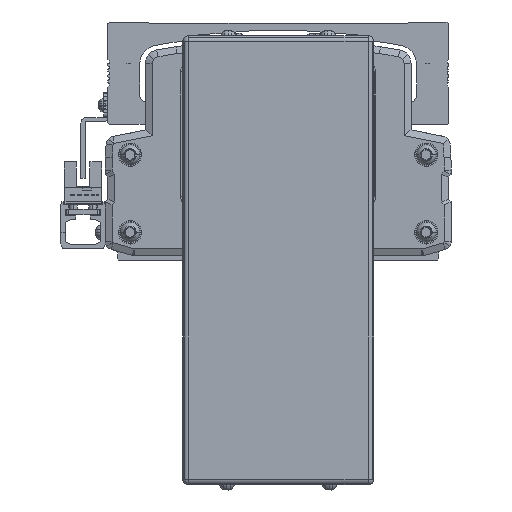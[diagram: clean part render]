
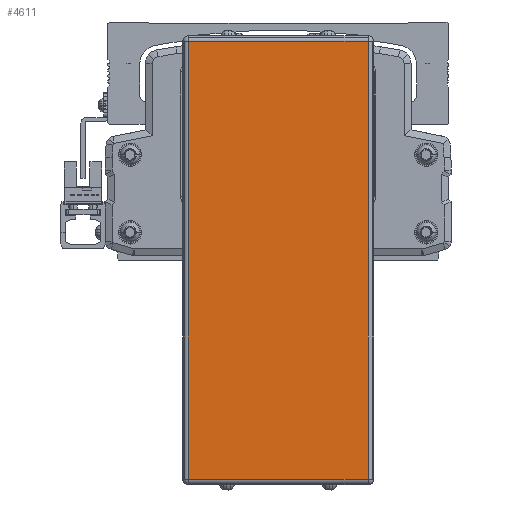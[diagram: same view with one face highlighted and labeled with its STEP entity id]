
A CAD part, front view. The second image highlights one B-rep face of the part: STEP entity #4611.
In plain terms, the highlighted planar face has unit normal (0, -1, 0).
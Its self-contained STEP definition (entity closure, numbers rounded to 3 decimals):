
#4611=ADVANCED_FACE('',(#11059),#11060,.T.);
#11059=FACE_OUTER_BOUND('',#20031,.T.);
#11060=PLANE('',#20032);
#20031=EDGE_LOOP('',(#34419,#34420,#34421,#34422));
#20032=AXIS2_PLACEMENT_3D('',#34423,#34424,#34425);
#34419=ORIENTED_EDGE('',*,*,#56355,.F.);
#34420=ORIENTED_EDGE('',*,*,#52327,.F.);
#34421=ORIENTED_EDGE('',*,*,#56356,.F.);
#34422=ORIENTED_EDGE('',*,*,#56357,.F.);
#34423=CARTESIAN_POINT('',(-299.996,-463.778,-49.1));
#34424=DIRECTION('',(0.,-1.0,0.));
#34425=DIRECTION('',(1.0,0.,0.));
#52327=EDGE_CURVE('',#62216,#62218,#62219,.T.);
#56355=EDGE_CURVE('',#62218,#69042,#69043,.T.);
#56356=EDGE_CURVE('',#68865,#62216,#69044,.T.);
#56357=EDGE_CURVE('',#69042,#68865,#69045,.T.);
#62216=VERTEX_POINT('',#76693);
#62218=VERTEX_POINT('',#76695);
#62219=LINE('',#76696,#76697);
#68865=VERTEX_POINT('',#86167);
#69042=VERTEX_POINT('',#86406);
#69043=LINE('',#86407,#86408);
#69044=LINE('',#86409,#86410);
#69045=LINE('',#86411,#86412);
#76693=CARTESIAN_POINT('',(-332.496,-463.778,30.));
#76695=CARTESIAN_POINT('',(-267.496,-463.778,30.));
#76696=CARTESIAN_POINT('',(-299.996,-463.778,30.));
#76697=VECTOR('',#96913,10.0);
#86167=CARTESIAN_POINT('',(-332.496,-463.778,-128.2));
#86406=CARTESIAN_POINT('',(-267.496,-463.778,-128.2));
#86407=CARTESIAN_POINT('',(-267.496,-463.778,-49.1));
#86408=VECTOR('',#102126,10.0);
#86409=CARTESIAN_POINT('',(-332.496,-463.778,-49.1));
#86410=VECTOR('',#102127,10.0);
#86411=CARTESIAN_POINT('',(-299.996,-463.778,-128.2));
#86412=VECTOR('',#102128,10.0);
#96913=DIRECTION('',(1.0,0.,0.));
#102126=DIRECTION('',(0.0,0.,-1.0));
#102127=DIRECTION('',(0.0,0.,1.0));
#102128=DIRECTION('',(-1.0,0.,0.));
